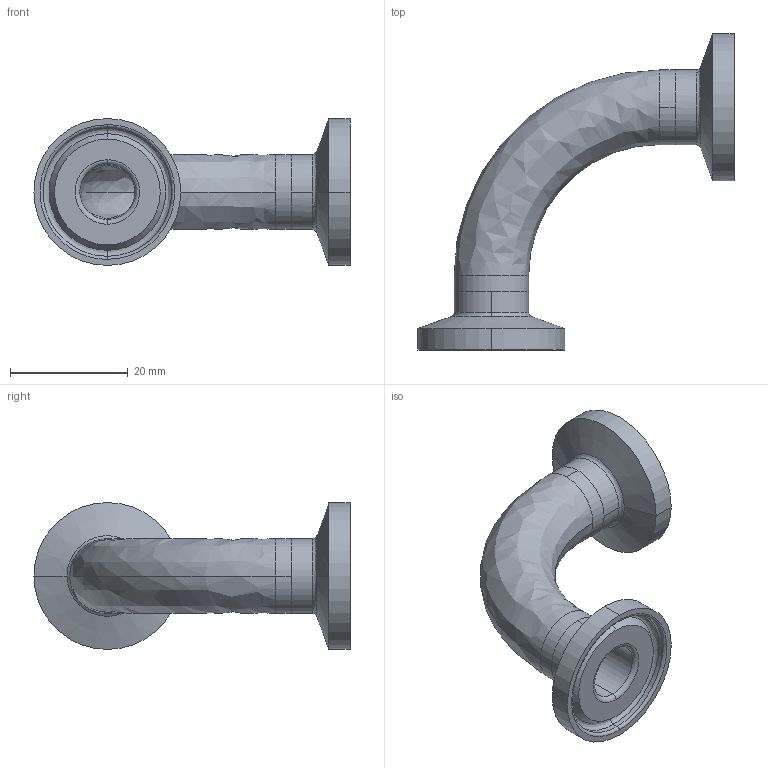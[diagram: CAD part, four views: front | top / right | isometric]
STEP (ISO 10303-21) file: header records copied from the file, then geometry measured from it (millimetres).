
FILE_DESCRIPTION (( 'STEP AP214' ), '1' );
FILE_NAME ('TEG2C6L.5-...STEP', '2016-05-22T10:32:54', ( 'eran' ), ( '' ), 'SwSTEP 2.0', 'SolidWorks 2016', '' );
FILE_SCHEMA (( 'AUTOMOTIVE_DESIGN' ));
Length unit declared in the file: millimetre
Products named in the file (1): TEG2C6L.5-..
Bounding box: 53.8 x 53.8 x 24.99 mm (x, y, z)
Volume: 6661.7 mm3; surface area: 7057.2 mm2
Topology: 3 solids, 3 shells, 60 faces, 140 edges, 88 vertices
Faces by surface type: cylinder 24, bspline 20, plane 8, cone 8
Entity records: 2040 total; most frequent: CARTESIAN_POINT 613, DIRECTION 314, ORIENTED_EDGE 280, AXIS2_PLACEMENT_3D 141, EDGE_CURVE 140, CIRCLE 100, VERTEX_POINT 88, EDGE_LOOP 68
